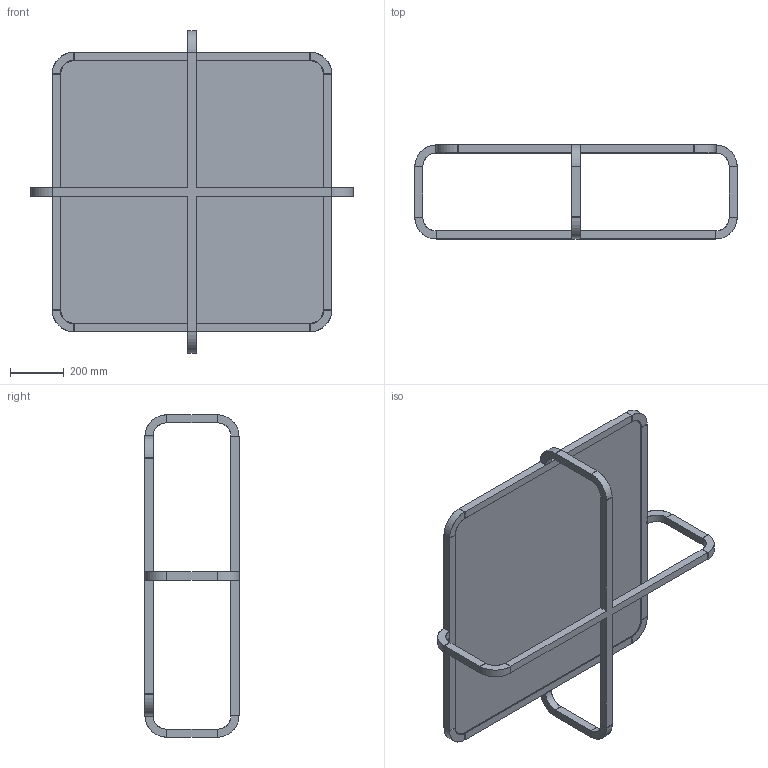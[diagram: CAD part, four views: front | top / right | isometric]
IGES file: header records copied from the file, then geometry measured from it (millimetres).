
Start section: SolidWorks IGES file using analytic representation for surfaces
Global section: file name: C:\Users\Utilizador\Desktop\Sales Files\176\176J Alpha Low Table_3D IGS.IGS; native system: SolidWorks 2016; preprocessor: SolidWorks 2016; author: Utilizador; date: 221104.152856; units: millimetre
Bounding box: 1200 x 350 x 1200 mm (x, y, z)
Surface area: 2843919.7 mm2 (no closed solid volume)
Topology: 0 solids, 0 shells, 250 faces, 2176 edges, 2176 vertices
Faces by surface type: bspline 214, revolution 36
